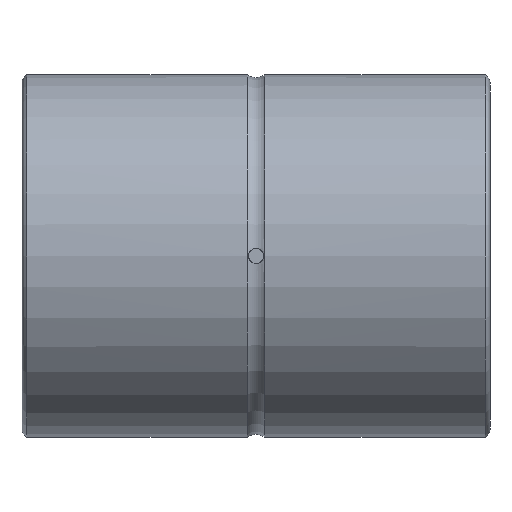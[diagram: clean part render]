
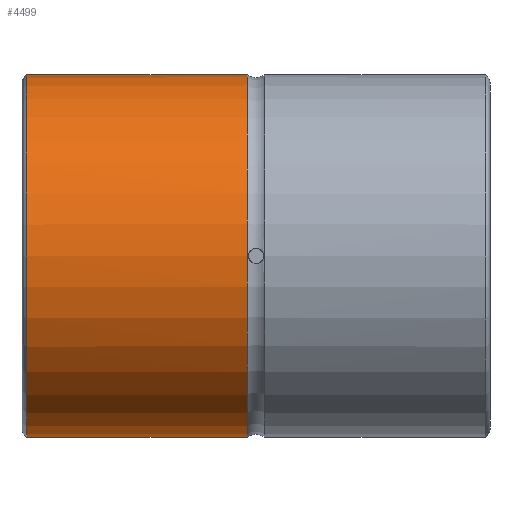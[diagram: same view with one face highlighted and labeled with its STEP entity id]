
A CAD part, front view. The second image highlights one B-rep face of the part: STEP entity #4499.
In plain terms, the highlighted cylindrical face has radius 60 mm (diameter 120 mm), a full revolution.
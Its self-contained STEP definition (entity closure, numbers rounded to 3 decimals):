
#23=B_SPLINE_CURVE_WITH_KNOTS('',3,(#7394,#7395,#7396,#7397,#7398,#7399,
#7400,#7401,#7402,#7403,#7404),.UNSPECIFIED.,.F.,.F.,(4,1,1,1,1,1,1,1,4),
(0.,0.004,0.008,0.012,
0.016,0.02,0.023,0.027,
0.031),.UNSPECIFIED.);
#418=LINE('',#7407,#848);
#419=LINE('',#7408,#849);
#848=VECTOR('',#5933,1000.);
#849=VECTOR('',#5934,1000.);
#1648=ORIENTED_EDGE('',*,*,#2769,.T.);
#1649=ORIENTED_EDGE('',*,*,#2770,.T.);
#1650=ORIENTED_EDGE('',*,*,#2762,.F.);
#1651=ORIENTED_EDGE('',*,*,#2771,.T.);
#1652=ORIENTED_EDGE('',*,*,#2768,.T.);
#2762=EDGE_CURVE('',#3320,#3321,#3643,.T.);
#2768=EDGE_CURVE('',#3326,#3326,#3645,.T.);
#2769=EDGE_CURVE('',#3327,#3328,#23,.T.);
#2770=EDGE_CURVE('',#3328,#3321,#418,.T.);
#2771=EDGE_CURVE('',#3320,#3327,#419,.F.);
#3320=VERTEX_POINT('',#7338);
#3321=VERTEX_POINT('',#7339);
#3326=VERTEX_POINT('',#7392);
#3327=VERTEX_POINT('',#7405);
#3328=VERTEX_POINT('',#7406);
#3643=CIRCLE('',#4940,60.);
#3645=CIRCLE('',#4943,60.);
#3825=EDGE_LOOP('',(#1648,#1649,#1650,#1651));
#3826=EDGE_LOOP('',(#1652));
#4117=FACE_BOUND('',#3825,.T.);
#4118=FACE_BOUND('',#3826,.T.);
#4350=CYLINDRICAL_SURFACE('',#4944,60.);
#4499=ADVANCED_FACE('',(#4117,#4118),#4350,.T.);
#4940=AXIS2_PLACEMENT_3D('',#7337,#5923,#5924);
#4943=AXIS2_PLACEMENT_3D('',#7391,#5929,#5930);
#4944=AXIS2_PLACEMENT_3D('',#7393,#5931,#5932);
#5923=DIRECTION('',(1.,0.,0.));
#5924=DIRECTION('',(0.,0.,-1.));
#5929=DIRECTION('',(1.,0.,0.));
#5930=DIRECTION('',(0.,0.,-1.));
#5931=DIRECTION('',(1.,0.,0.));
#5932=DIRECTION('',(0.,0.,-1.));
#5933=DIRECTION('',(1.,0.,0.));
#5934=DIRECTION('',(1.,0.,0.));
#7337=CARTESIAN_POINT('',(-2.86,0.,0.));
#7338=CARTESIAN_POINT('',(-2.86,59.161,10.));
#7339=CARTESIAN_POINT('',(-2.86,59.161,-10.));
#7391=CARTESIAN_POINT('',(-76.,0.,0.));
#7392=CARTESIAN_POINT('',(-76.,0.,-60.));
#7393=CARTESIAN_POINT('',(77.5,0.,0.));
#7394=CARTESIAN_POINT('',(-30.,59.161,10.));
#7395=CARTESIAN_POINT('',(-31.324,59.161,10.));
#7396=CARTESIAN_POINT('',(-33.93,59.253,9.476));
#7397=CARTESIAN_POINT('',(-37.256,59.582,7.254));
#7398=CARTESIAN_POINT('',(-39.474,59.909,3.936));
#7399=CARTESIAN_POINT('',(-40.261,60.045,0.008));
#7400=CARTESIAN_POINT('',(-39.481,59.91,-3.923));
#7401=CARTESIAN_POINT('',(-37.259,59.583,-7.251));
#7402=CARTESIAN_POINT('',(-33.934,59.253,-9.474));
#7403=CARTESIAN_POINT('',(-31.324,59.161,-10.));
#7404=CARTESIAN_POINT('',(-30.,59.161,-10.));
#7405=CARTESIAN_POINT('',(-30.,59.161,10.));
#7406=CARTESIAN_POINT('',(-30.,59.161,-10.));
#7407=CARTESIAN_POINT('',(77.5,59.161,-10.));
#7408=CARTESIAN_POINT('',(77.5,59.161,10.));
